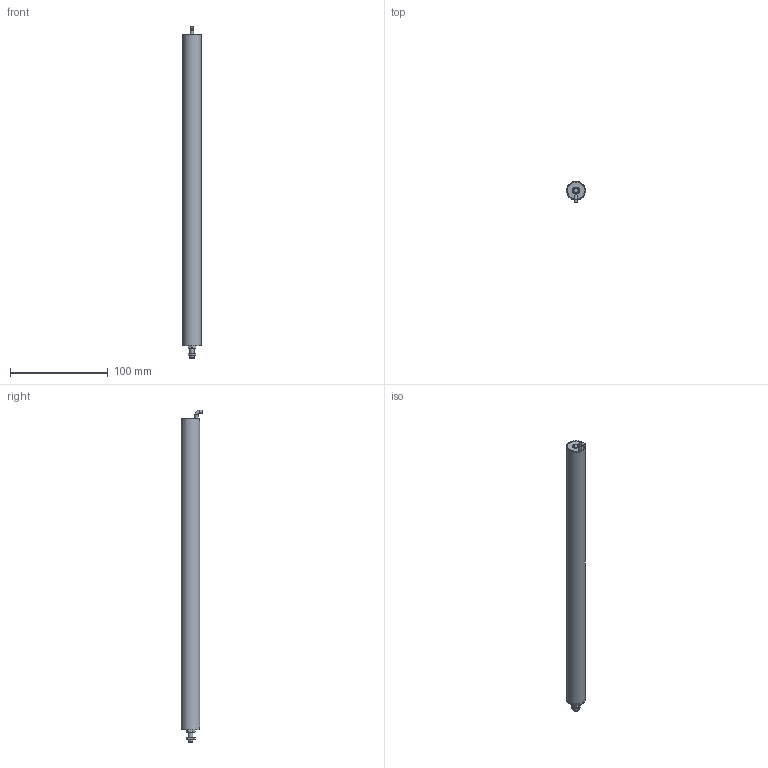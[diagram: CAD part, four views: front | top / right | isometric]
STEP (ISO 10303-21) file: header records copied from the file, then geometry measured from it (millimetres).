
FILE_DESCRIPTION(/* description */ ('ILPS-19Z-XXX-A-00-ZZ shrinkwrapped'),/* implementation_level */ '2;1');
FILE_NAME(/* name */ 'ILPS-19Z-300-A-00-ZZ shrinkwrapped.stp',/* time_stamp */ '2026-08-13T16:12:36-04:00',/* author */ ('Cameron'),/* organization */ ('hgsi'),/* preprocessor_version */ 'ST-DEVELOPER v20.1',/* originating_system */ 'Autodesk Inventor 2027',/* authorisation */ '');
FILE_SCHEMA (('AUTOMOTIVE_DESIGN { 1 0 10303 214 3 1 1 }'));
Length unit declared in the file: inch
Products named in the file (4): ILPS-19Z-250-A-00-ZZ shrinkwrapped; ILPS-19Z-300-A-00-ZZ-A shrinkwrapped body; ILPS-19Z-300 Rod; 8200-0360
Assembly tree (4 placements, depth 2):
  ILPS-19Z-250-A-00-ZZ shrinkwrapped
    ILPS-19Z-300-A-00-ZZ-A shrinkwrapped body
    ILPS-19Z-300 Rod
    8200-0360  x2
Bounding box: 19.05 x 21.89 x 338.9 mm (x, y, z)
Volume: 16955.3 mm3; surface area: 66801.5 mm2
Topology: 6 solids, 6 shells, 95 faces, 226 edges, 149 vertices
Faces by surface type: cylinder 41, plane 33, cone 16, bspline 4, torus 1
Full cylindrical faces by diameter (mm): 3.175 x2, 3.961 x2, 4.75 x1, 4.775 x1, 5 x4, 5.08 x1, 5.944 x2, 5.994 x1, 7.061 x1, 7.137 x2, 18.364 x1, 18.415 x1, 19.05 x1
Entity records: 2811 total; most frequent: CARTESIAN_POINT 1138, DIRECTION 304, ORIENTED_EDGE 302, EDGE_CURVE 151, AXIS2_PLACEMENT_3D 127, VERTEX_POINT 99, EDGE_LOOP 82, FACE_OUTER_BOUND 68
